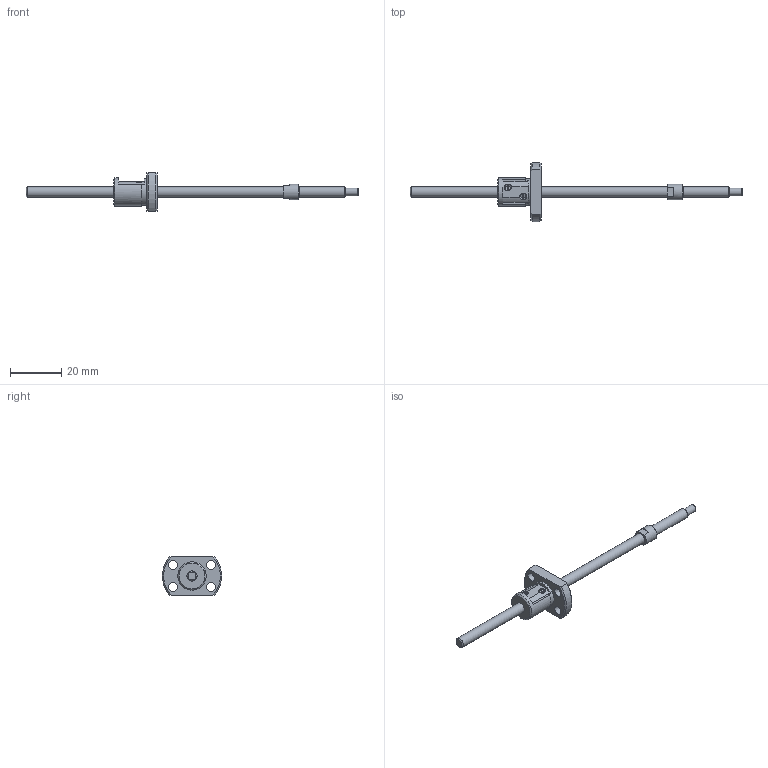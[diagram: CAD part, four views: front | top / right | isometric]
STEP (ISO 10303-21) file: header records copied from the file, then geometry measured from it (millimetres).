
FILE_DESCRIPTION(/* description */ ('STEP AP214'),/* implementation_level */ '2;1');
FILE_NAME(/* name */ 'SRT0401-096R129C7A0X(34Processing)',/* time_stamp */ '2026-08-04T17:44:57+02:00',/* author */ ('License CC BY-ND 4.0'),/* organization */ ('CADENAS'),/* preprocessor_version */ 'ST-DEVELOPER v20',/* originating_system */ 'PARTsolutions',/* authorisation */ ' ');
FILE_SCHEMA (('AUTOMOTIVE_DESIGN {1 0 10303 214 3 1 1}'));
Length unit declared in the file: millimetre
Products named in the file (3): SRT0401-096R129C7A0X(34Processing); SRT0401-96R155ACt7Processing1Shaft; SRT0401Nut
Assembly tree (2 placements, depth 2):
  SRT0401-096R129C7A0X(34Processing)
    SRT0401-96R155ACt7Processing1Shaft
    SRT0401Nut
Bounding box: 129 x 22.93 x 15 mm (x, y, z)
Volume: 3694.9 mm3; surface area: 3334 mm2
Topology: 2 solids, 2 shells, 61 faces, 155 edges, 102 vertices
Faces by surface type: plane 30, cylinder 17, cone 13, torus 1
Full cylindrical faces by diameter (mm): 1 x2, 3 x1, 3.4 x4, 4 x3, 6 x1, 10.5 x1, 11 x1
Entity records: 1743 total; most frequent: CARTESIAN_POINT 332, DIRECTION 288, ORIENTED_EDGE 238, AXIS2_PLACEMENT_3D 123, EDGE_CURVE 119, EDGE_LOOP 98, FACE_BOUND 98, VERTEX_POINT 89
